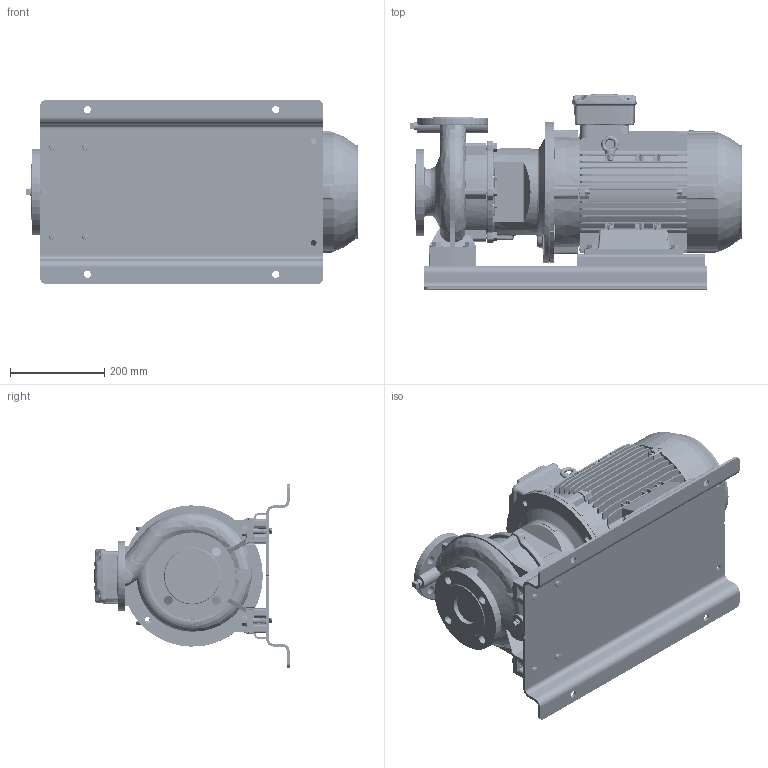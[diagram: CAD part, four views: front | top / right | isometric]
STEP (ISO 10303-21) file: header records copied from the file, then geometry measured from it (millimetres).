
FILE_DESCRIPTION (( 'STEP AP214' ), '1' );
FILE_NAME ('GSD2 40-160_9.2_(132M)_W21_BP.STEP', '2024-07-30T00:46:23', ( '' ), ( '' ), 'SwSTEP 2.0', 'SolidWorks 2019', '' );
FILE_SCHEMA (( 'AUTOMOTIVE_DESIGN' ));
Length unit declared in the file: millimetre
Products named in the file (18): Parametric Flat Washer_M10; Parametric bolt and washer_SFT-A309B; Parametric bolt and washer_SFT-A253B; 40-160-132M; 132M ALIE3_W21T_B35; GSD2  40-160_9.2_(132M)_W21_BP; Parametric bolt_SFT-A309B; CGS11-5301_2_3_4_5_CGS11-5302; 140_178 x 25 - CGSDA-5240; Parametric bolt_SFT-A253B; Parametric Flat Washer_M12; N3S3 GSDA-338 F1-1832910-00
Assembly tree (31 placements, depth 3):
  GSD2  40-160_9.2_(132M)_W21_BP
    40-160-132M
    CGS11-5301_2_3_4_5_CGS11-5302  x2
    Parametric bolt and washer_SFT-A309B
      Parametric bolt_SFT-A309B
      Parametric Flat Washer_M12
    Parametric bolt and washer_SFT-A309B
      Parametric bolt_SFT-A309B
      Parametric Flat Washer_M12
    Parametric bolt and washer_SFT-A309B
      Parametric bolt_SFT-A309B
      Parametric Flat Washer_M12
    Parametric bolt and washer_SFT-A309B
      Parametric bolt_SFT-A309B
      Parametric Flat Washer_M12
    Parametric bolt and washer_SFT-A253B
      Parametric bolt_SFT-A253B
      Parametric Flat Washer_M10
    Parametric bolt and washer_SFT-A253B
      Parametric bolt_SFT-A253B
      Parametric Flat Washer_M10
    Parametric bolt and washer_SFT-A253B
      Parametric bolt_SFT-A253B
      Parametric Flat Washer_M10
    Parametric bolt and washer_SFT-A253B
      Parametric bolt_SFT-A253B
      Parametric Flat Washer_M10
    132M ALIE3_W21T_B35
    N3S3 GSDA-338 F1-1832910-00
    140_178 x 25 - CGSDA-5240  x2
Bounding box: 705.45 x 415 x 390 mm (x, y, z)
Volume: 28585863.9 mm3; surface area: 2454641.5 mm2
Topology: 35 solids, 35 shells, 5018 faces, 13214 edges, 8596 vertices
Faces by surface type: plane 2926, cylinder 1259, torus 335, bspline 256, cone 210, sphere 32
Entity records: 220009 total; most frequent: CARTESIAN_POINT 58366, ORIENTED_EDGE 24356, DIRECTION 21905, EDGE_CURVE 12178, VECTOR 7979, LINE 7979, VERTEX_POINT 7934, AXIS2_PLACEMENT_3D 6963
